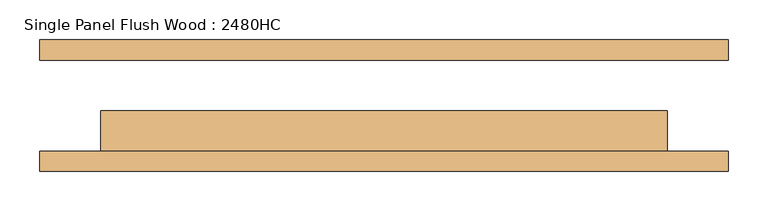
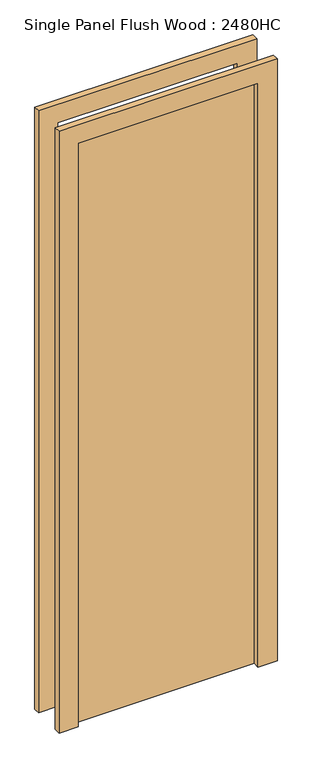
"""IFC4 building model written with IfcOpenShell, lengths in millimetres: door geometry, Single Panel Flush Wood : 2480HC."""

import ifcopenshell
import ifcopenshell.guid

model = None  # the IFC model being written
_history = None  # IfcOwnerHistory: only IFC2X3 demands one
_inside = {}  # id of a spatial element -> (the spatial element, [elements in it])
_under = {}  # id of a project, library or spatial element -> (it, [spatial elements below it])
_declared = {}  # id of a project -> (the project, [libraries it declares])
_typed = {}  # id of a type object -> (the type object, [elements of that type])
_made_of = {}  # id of a material, layer set ... -> (it, [elements and type objects made of it])


def new_model(schema):
    """Start an empty IFC model of exactly this schema.

    Asked for "IFC4X3", IfcOpenShell would pick the latest addendum, in which some entities
    have other attributes; the version numbers below select the first issue.
    IFC2X3 requires an IfcOwnerHistory on every rooted entity: one is made here for all.
    """
    global model, _history
    if schema == "IFC4X3":
        model = ifcopenshell.file(schema_version=(4, 3, 0, 0))
    else:
        model = ifcopenshell.file(schema=schema)
    _inside.clear()
    _under.clear()
    _declared.clear()
    _typed.clear()
    _made_of.clear()
    _history = None
    if model.schema == "IFC2X3":
        org = make("IfcOrganization", Name="unknown")
        user = make(
            "IfcPersonAndOrganization",
            ThePerson=make("IfcPerson", FamilyName="unknown"),
            TheOrganization=org,
        )
        app = make(
            "IfcApplication",
            ApplicationDeveloper=org,
            Version="unknown",
            ApplicationFullName="unknown",
            ApplicationIdentifier="unknown",
        )
        _history = make(
            "IfcOwnerHistory",
            OwningUser=user,
            OwningApplication=app,
            ChangeAction="ADDED",
            CreationDate=0,
        )
    return model


def make(cls, **values):
    """One entity of the class cls with the attributes given. An attribute that is None is left unset."""
    return model.create_entity(
        cls, **{name: value for name, value in values.items() if value is not None}
    )


def rooted(cls, **values):
    """An entity with a GlobalId (a new one), such as an element, a storey or a relation."""
    return make(cls, GlobalId=ifcopenshell.guid.new(), OwnerHistory=_history, **values)


def si_unit(unit_type, name, prefix=None):
    """IfcSIUnit, for example si_unit("LENGTHUNIT", "METRE", prefix="MILLI")."""
    return make("IfcSIUnit", UnitType=unit_type, Prefix=prefix, Name=name)


def assignment(units):
    """IfcUnitAssignment: the units of a project."""
    return None if units is None else make("IfcUnitAssignment", Units=units)


def point(xyz):
    """IfcCartesianPoint."""
    return None if xyz is None else make("IfcCartesianPoint", Coordinates=xyz)


def direction(xyz):
    """IfcDirection."""
    return None if xyz is None else make("IfcDirection", DirectionRatios=xyz)


def frame(location, z_axis=None, x_axis=None):
    """IfcAxis2Placement3D, a coordinate frame: its origin and axes. An axis left out is left unset."""
    return make(
        "IfcAxis2Placement3D",
        Location=point(location),
        Axis=direction(z_axis),
        RefDirection=direction(x_axis),
    )


def origin():
    """The frame at (0, 0, 0) with its axes left unset."""
    return frame((0.0, 0.0, 0.0))


def origin_with_axes():
    """The frame at (0, 0, 0) with the z axis (0, 0, 1) and the x axis (1, 0, 0) written out."""
    return frame((0.0, 0.0, 0.0), z_axis=(0.0, 0.0, 1.0), x_axis=(1.0, 0.0, 0.0))


def place(relative_to, where):
    """IfcLocalPlacement: puts the frame where relative to a parent placement (None: the world)."""
    return make(
        "IfcLocalPlacement", PlacementRelTo=relative_to, RelativePlacement=where
    )


def context(
    kind, dimensions, precision=None, world=None, true_north=None, identifier=None
):
    """IfcGeometricRepresentationContext, for example the 3D "Model" context."""
    return make(
        "IfcGeometricRepresentationContext",
        ContextIdentifier=identifier,
        ContextType=kind,
        CoordinateSpaceDimension=dimensions,
        Precision=precision,
        WorldCoordinateSystem=world,
        TrueNorth=true_north,
    )


def project(units=None, contexts=None):
    """IfcProject with its units and contexts."""
    return rooted(
        "IfcProject",
        Name="project",
        RepresentationContexts=contexts,
        UnitsInContext=assignment(units),
    )


def spatial(cls, under=None, at=None, **own):
    """A site, building, storey or space (cls), placed at a placement, below another one or the project."""
    s = rooted(cls, ObjectPlacement=at, **own)
    if under is not None:
        _under.setdefault(under.id(), (under, []))[1].append(s)
    return s


def polyline(points):
    """IfcPolyline through the points."""
    return make("IfcPolyline", Points=[point(p) for p in points])


def outline(outer, holes=None, kind="AREA"):
    """IfcArbitraryClosedProfileDef: a profile drawn as a closed curve; with holes, ...WithVoids."""
    if holes is None:
        return make("IfcArbitraryClosedProfileDef", ProfileType=kind, OuterCurve=outer)
    return make(
        "IfcArbitraryProfileDefWithVoids",
        ProfileType=kind,
        OuterCurve=outer,
        InnerCurves=holes,
    )


def extrude(swept, where, along, depth):
    """IfcExtrudedAreaSolid: the profile swept, set in the frame where, extruded along a direction by depth."""
    return make(
        "IfcExtrudedAreaSolid",
        SweptArea=swept,
        Position=where,
        ExtrudedDirection=direction(along),
        Depth=depth,
    )


def shape(context_of_items, identifier, shape_type, items):
    """IfcShapeRepresentation: the items that make up one representation, for example the "Body"."""
    return make(
        "IfcShapeRepresentation",
        ContextOfItems=context_of_items,
        RepresentationIdentifier=identifier,
        RepresentationType=shape_type,
        Items=items,
    )


def source(mapping_origin, context_of_items, identifier, shape_type, items):
    """IfcRepresentationMap: a shape defined once, which mapped items show again and again."""
    return make(
        "IfcRepresentationMap",
        MappingOrigin=mapping_origin,
        MappedRepresentation=shape(context_of_items, identifier, shape_type, items),
    )


def transform(
    local_origin,
    x_axis=None,
    y_axis=None,
    z_axis=None,
    scale=None,
    scale2=None,
    scale3=None,
    uniform=True,
):
    """IfcCartesianTransformationOperator3D, or its non-uniform kind. x_axis, y_axis, z_axis: its Axis1, 2, 3."""
    if uniform:
        return make(
            "IfcCartesianTransformationOperator3D",
            Axis1=direction(x_axis),
            Axis2=direction(y_axis),
            LocalOrigin=point(local_origin),
            Scale=scale,
            Axis3=direction(z_axis),
        )
    return make(
        "IfcCartesianTransformationOperator3DnonUniform",
        Axis1=direction(x_axis),
        Axis2=direction(y_axis),
        LocalOrigin=point(local_origin),
        Scale=scale,
        Axis3=direction(z_axis),
        Scale2=scale2,
        Scale3=scale3,
    )


def mapped(mapping_source, mapping_target):
    """IfcMappedItem: shows the shape of a source again, moved by a transform."""
    return make(
        "IfcMappedItem", MappingSource=mapping_source, MappingTarget=mapping_target
    )


def made_of(thing, what):
    """Note that an element or type object is made of a material, layer set ...; save() writes the relation."""
    if what is not None:
        _made_of.setdefault(what.id(), (what, []))[1].append(thing)
    return thing


def element(
    cls,
    number,
    at=None,
    inside=None,
    cuts=None,
    type_object=None,
    material=None,
    context=None,
    identifier="Body",
    shape_type=None,
    held_by="IfcProductDefinitionShape",
    body=None,
    shapes=None,
    **own,
):
    """One element of the class cls, such as IfcWall. Its Tag is "e" and its number.

    at: its placement. inside: the storey or other place that contains it. cuts: it is an
    opening in that element (IfcRelVoidsElement). A single representation is given by context,
    identifier, shape_type and body (its items); several are given by shapes. held_by: the class
    of the entity that holds the representations. save() writes the other relations.
    """
    e = rooted(cls, Tag="e%d" % number, ObjectPlacement=at, **own)
    if body is not None:
        shapes = [shape(context, identifier, shape_type, body)]
    if shapes is not None:
        e.Representation = make(held_by, Representations=shapes)
    if inside is not None:
        _inside.setdefault(inside.id(), (inside, []))[1].append(e)
    if cuts is not None:
        rooted(
            "IfcRelVoidsElement", RelatingBuildingElement=cuts, RelatedOpeningElement=e
        )
    if type_object is not None:
        _typed.setdefault(type_object.id(), (type_object, []))[1].append(e)
    return made_of(e, material)


def aggregate(whole, parts):
    """IfcRelAggregates: a whole, such as a stair, and the parts it consists of."""
    return rooted("IfcRelAggregates", RelatingObject=whole, RelatedObjects=parts)


def save(model, path):
    """Write the relations noted so far, then the file.

    IfcRelAggregates (storeys below a building ...), IfcRelContainedInSpatialStructure (elements
    in a storey), IfcRelDefinesByType, IfcRelAssociatesMaterial and IfcRelDeclares: one each for
    every whole, place, type object, material and project.
    """
    for whole, parts in _under.values():
        aggregate(whole, parts)
    for where, things in _inside.values():
        rooted(
            "IfcRelContainedInSpatialStructure",
            RelatedElements=things,
            RelatingStructure=where,
        )
    for kind, things in _typed.values():
        rooted("IfcRelDefinesByType", RelatedObjects=things, RelatingType=kind)
    for what, things in _made_of.values():
        rooted("IfcRelAssociatesMaterial", RelatedObjects=things, RelatingMaterial=what)
    for by, libraries in _declared.values():
        rooted("IfcRelDeclares", RelatingContext=by, RelatedDefinitions=libraries)
    model.write(path)


def single_panel_flush_wood_2480hc_8698876a(model_context):
    return source(origin(), model_context, "Body", "SweptSolid", [
        extrude(outline(polyline([(2514.6, -431.8), (0.0, -431.8), (0.0, -355.6), (2438.4, -355.6), (2438.4, 355.6), (0.0, 355.6), (0.0, 431.8), (2514.6, 431.8), (2514.6, -431.8)])), frame((0.0, -82.55, 0.0), z_axis=(0.0, 1.0, 0.0), x_axis=(0.0, 0.0, 1.0)), (0.0, 0.0, 1.0), 25.4),
        extrude(outline(polyline([(2514.6, 431.8), (2514.6, -431.8), (0.0, -431.8), (0.0, -355.6), (2438.4, -355.6), (2438.4, 355.6), (0.0, 355.6), (0.0, 431.8), (2514.6, 431.8)])), frame((0.0, 57.15, 0.0), z_axis=(0.0, 1.0, 0.0), x_axis=(0.0, 0.0, 1.0)), (0.0, 0.0, 1.0), 25.4),
        extrude(outline(polyline([(355.6, -6.35), (355.6, -57.15), (-355.6, -57.15), (-355.6, -6.35), (355.6, -6.35)])), origin_with_axes(), (0.0, 0.0, 1.0), 2438.4),
    ])


if __name__ == "__main__":
    model = new_model("IFC4")
    model_context = context("Model", 3, world=origin())
    ifc_project = project(units=[si_unit("LENGTHUNIT", "METRE", prefix="MILLI")], contexts=[model_context])
    site = spatial("IfcSite", under=ifc_project)
    building = spatial("IfcBuilding", under=site)
    placement = place(None, origin())
    single_panel_flush_wood_2480hc_shape = single_panel_flush_wood_2480hc_8698876a(model_context)
    element("IfcDoor", 1, ObjectType="Single Panel Flush Wood : 2480HC", at=placement, inside=building, context=model_context, shape_type="MappedRepresentation", body=[
        mapped(single_panel_flush_wood_2480hc_shape, transform((0.0, 0.0, 0.0), x_axis=(1.0, 0.0, 0.0), y_axis=(0.0, 1.0, 0.0), z_axis=(0.0, 0.0, 1.0))),
    ])
    save(model, "model.ifc")
